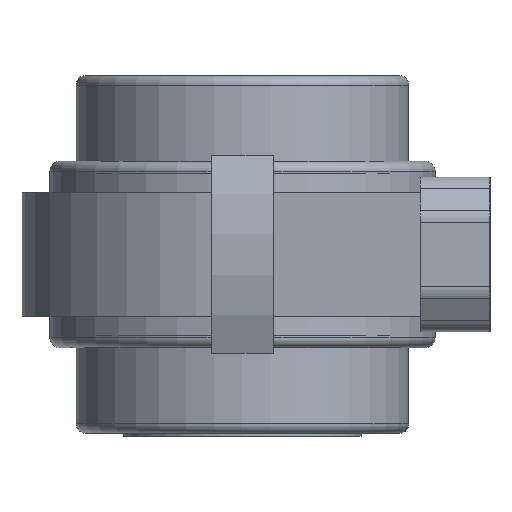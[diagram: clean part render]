
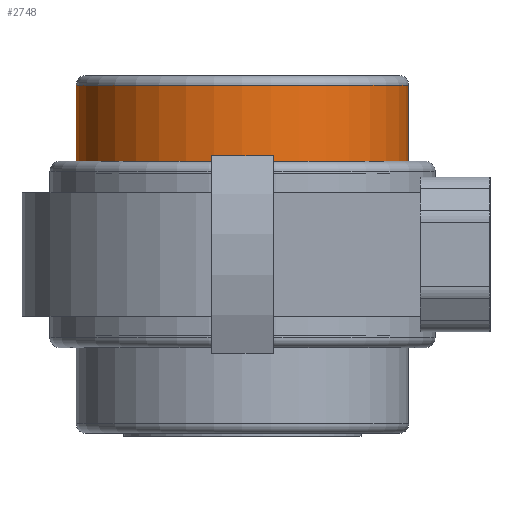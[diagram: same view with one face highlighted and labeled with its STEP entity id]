
A CAD part, left-side view. The second image highlights one B-rep face of the part: STEP entity #2748.
In plain terms, the highlighted cylindrical face has radius 21.5 mm (diameter 43 mm), a full revolution.
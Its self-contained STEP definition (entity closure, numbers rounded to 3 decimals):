
#2714=CARTESIAN_POINT('',(0.0,21.5,15.9));
#2715=VERTEX_POINT('',#2714);
#2716=CARTESIAN_POINT('',(0.0,0.,15.9));
#2717=DIRECTION('',(0.0,0.0,-1.0));
#2718=DIRECTION('',(0.0,1.0,0.0));
#2719=AXIS2_PLACEMENT_3D('',#2716,#2717,#2718);
#2720=CIRCLE('',#2719,21.5);
#2721=EDGE_CURVE('',#2715,#2715,#2720,.T.);
#2729=CARTESIAN_POINT('',(0.0,0.,10.975));
#2730=DIRECTION('',(0.0,0.,-1.0));
#2731=DIRECTION('',(0.0,1.0,0.0));
#2732=AXIS2_PLACEMENT_3D('',#2729,#2730,#2731);
#2733=CYLINDRICAL_SURFACE('',#2732,21.5);
#2734=CARTESIAN_POINT('',(0.0,21.5,6.05));
#2735=VERTEX_POINT('',#2734);
#2736=CARTESIAN_POINT('',(0.0,0.,6.05));
#2737=DIRECTION('',(0.0,0.0,-1.0));
#2738=DIRECTION('',(0.0,1.0,0.0));
#2739=AXIS2_PLACEMENT_3D('',#2736,#2737,#2738);
#2740=CIRCLE('',#2739,21.5);
#2741=EDGE_CURVE('',#2735,#2735,#2740,.T.);
#2742=ORIENTED_EDGE('',*,*,#2741,.F.);
#2743=EDGE_LOOP('',(#2742));
#2744=FACE_OUTER_BOUND('',#2743,.T.);
#2745=ORIENTED_EDGE('',*,*,#2721,.T.);
#2746=EDGE_LOOP('',(#2745));
#2747=FACE_BOUND('',#2746,.T.);
#2748=ADVANCED_FACE('',(#2744,#2747),#2733,.T.);
